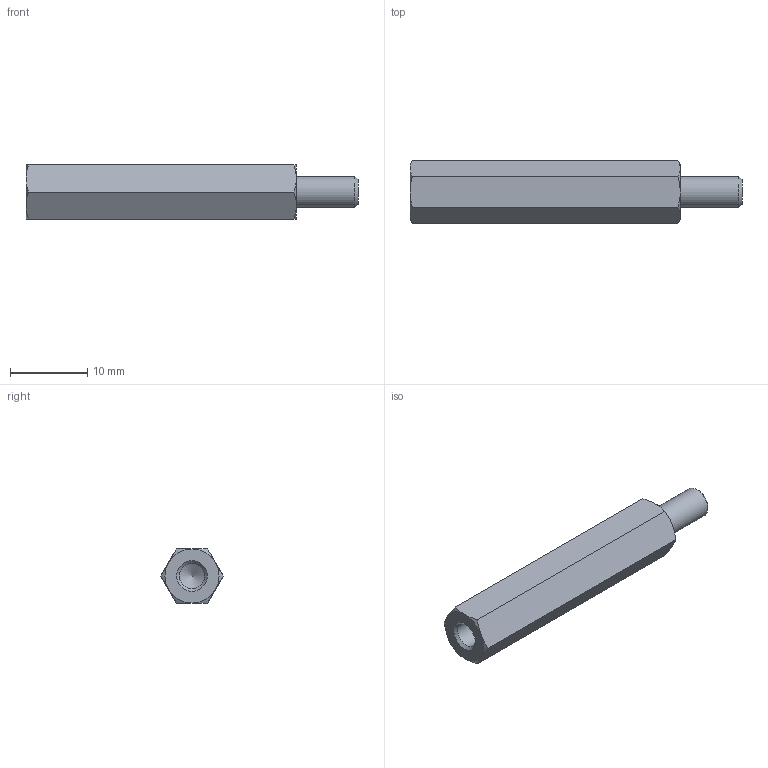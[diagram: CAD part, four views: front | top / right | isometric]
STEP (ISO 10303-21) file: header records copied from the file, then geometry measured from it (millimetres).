
FILE_DESCRIPTION( ( 'STEP AP203' ), '1' );
FILE_NAME( 'C:/Temp/Ganter_Step_05_03_2020/data/3_2/gn6220/gn6220_ni/Stainless Steel-Spacer GN 6220-NI-M4-35-B.stp', '2020-03-13T05:43:10', ( 'License CC BY-ND 4.0' ), ( 'CADENAS' ), ' ', 'PARTsolutions', ' ' );
FILE_SCHEMA( ( 'CONFIG_CONTROL_DESIGN' ) );
Length unit declared in the file: millimetre
Products named in the file (1): _Stainless Steel-Spacer GN 6220-NI-M4-35-B
Bounding box: 43 x 8.08 x 7 mm (x, y, z)
Volume: 1466.6 mm3; surface area: 1166.6 mm2
Topology: 1 solids, 1 shells, 26 faces, 55 edges, 32 vertices
Faces by surface type: cone 15, plane 9, cylinder 2
Full cylindrical faces by diameter (mm): 3.242 x1, 4 x1
Entity records: 746 total; most frequent: CARTESIAN_POINT 210, DIRECTION 96, ORIENTED_EDGE 96, EDGE_CURVE 48, AXIS2_PLACEMENT_3D 45, EDGE_LOOP 32, VERTEX_POINT 31, FACE_OUTER_BOUND 28
